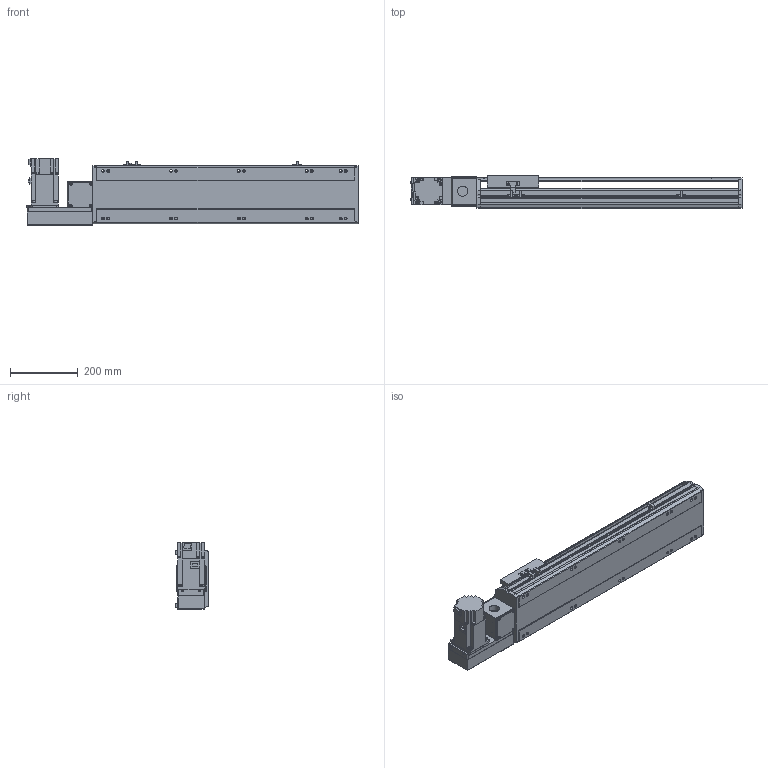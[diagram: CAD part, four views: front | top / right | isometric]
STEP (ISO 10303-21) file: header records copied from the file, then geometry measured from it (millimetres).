
FILE_DESCRIPTION( ( 'STEP AP214' ), '1' );
FILE_NAME( 'x:/temp/worker_3/temp/exporttempdir_5796_47_dSyWC/format_0/PBS170-P40-S500-L-T75-C1-N(0).stp', '2022-06-07T06:33:57', ( 'License CC BY-ND 4.0' ), ( 'CADENAS' ), ' ', 'PARTsolutions', ' ' );
FILE_SCHEMA( ( 'AUTOMOTIVE_DESIGN { 1 0 10303 214 1 1 1 1 }' ) );
Length unit declared in the file: millimetre
Products named in the file (7): PBS170-P40-S500-L-T75-C1-N(0); _PBS170-S500()_body; _PBS170T-L_motors; _T75-p1; _PBS170_sliser; _PBS170_plant; _PBS170_sensor
Assembly tree (8 placements, depth 2):
  PBS170-P40-S500-L-T75-C1-N(0)
    _PBS170-S500()_body
    _PBS170T-L_motors
    _T75-p1
    _PBS170_sliser
    _PBS170_plant
    _PBS170_sensor  x3
Bounding box: 978 x 97 x 197.3 mm (x, y, z)
Volume: 7426693.8 mm3; surface area: 1010761.2 mm2
Topology: 8 solids, 8 shells, 1034 faces, 2755 edges, 1796 vertices
Faces by surface type: plane 669, cylinder 315, cone 40, sphere 8, torus 2
Full cylindrical faces by diameter (mm): 3.242 x4, 4 x2, 4.4 x4, 4.5 x6, 4.917 x4, 6 x9, 6.647 x18, 7 x2, 7.5 x4, 8 x8, 8.5 x10, 10 x4, 10.5 x10, 11 x2, 30 x2, 40 x1, 70 x1
Entity records: 37814 total; most frequent: CARTESIAN_POINT 5717, DIRECTION 5090, ORIENTED_EDGE 4848, EDGE_CURVE 2424, AXIS2_PLACEMENT_3D 1747, VERTEX_POINT 1658, LINE 1596, VECTOR 1596
